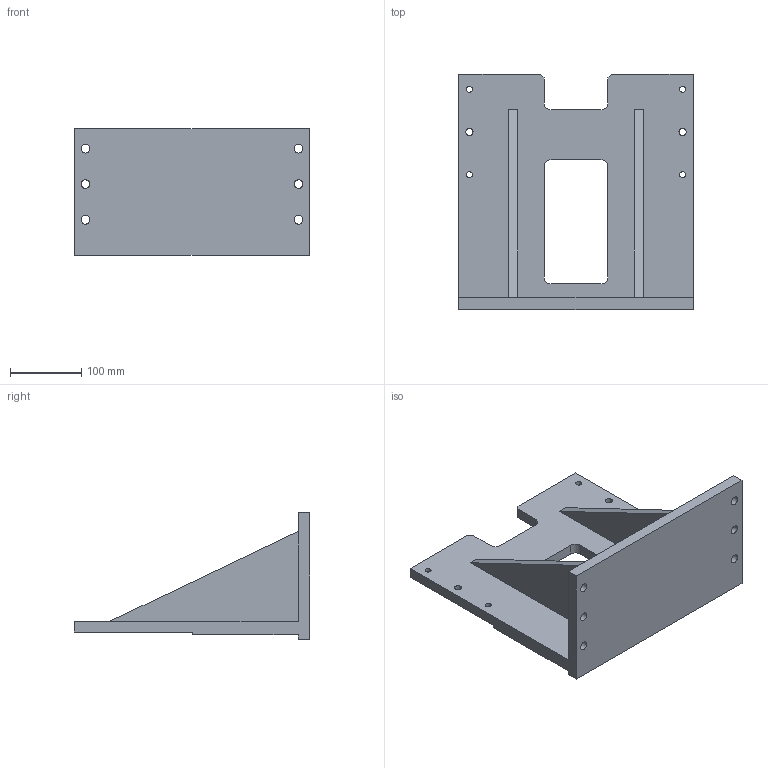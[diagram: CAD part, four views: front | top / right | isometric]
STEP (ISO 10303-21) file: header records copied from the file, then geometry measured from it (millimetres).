
FILE_DESCRIPTION(/* description */ ('DB4-RISER'),/* implementation_level */ '2;1');
FILE_NAME(/* name */ 'C:\Vault Workspace\CAD\Welker\Shot Pin\DBL40\S01896 DB4 Mounting Accessories\S01896E02\S01896E02-250.stp',/* time_stamp */ '2016-05-04T13:49:30-04:00',/* author */ ('klabrecque'),/* organization */ (''),/* preprocessor_version */ 'ST-DEVELOPER v15.2',/* originating_system */ 'Autodesk Inventor 2014',/* authorisation */ '');
FILE_SCHEMA (('AUTOMOTIVE_DESIGN { 1 0 10303 214 3 1 1 }'));
Length unit declared in the file: millimetre
Products named in the file (1): S01896E02-250
Bounding box: 330 x 331 x 177.8 mm (x, y, z)
Volume: 2760706.5 mm3; surface area: 390759.6 mm2
Topology: 1 solids, 1 shells, 47 faces, 150 edges, 104 vertices
Faces by surface type: plane 29, cylinder 18
Full cylindrical faces by diameter (mm): 8.376 x4, 10 x2, 12 x2, 12.5 x4
Entity records: 1628 total; most frequent: CARTESIAN_POINT 266, DIRECTION 258, ORIENTED_EDGE 252, EDGE_CURVE 126, VERTEX_POINT 92, LINE 90, VECTOR 90, EDGE_LOOP 84
